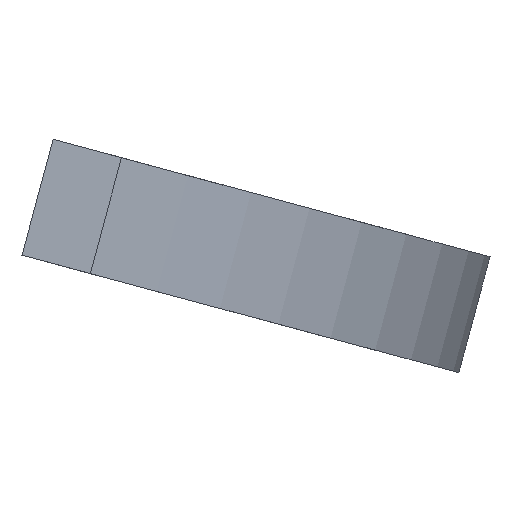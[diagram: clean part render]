
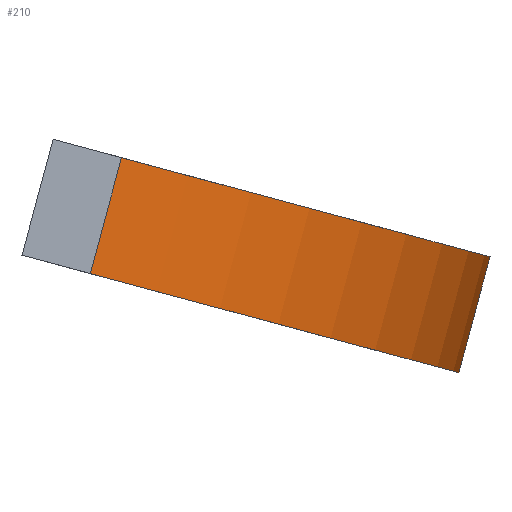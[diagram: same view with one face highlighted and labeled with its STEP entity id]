
A CAD part, front view. The second image highlights one B-rep face of the part: STEP entity #210.
In plain terms, the highlighted cylindrical face has radius 10.51 mm (diameter 21.02 mm), a partial arc.
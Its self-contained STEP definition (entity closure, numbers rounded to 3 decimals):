
#16=CYLINDRICAL_SURFACE('',#234,10.51);
#17=CIRCLE('',#228,10.51);
#20=CIRCLE('',#235,10.51);
#28=LINE('',#566,#38);
#29=LINE('',#570,#39);
#38=VECTOR('',#261,10.);
#39=VECTOR('',#266,10.);
#55=FACE_OUTER_BOUND('',#67,.T.);
#67=EDGE_LOOP('',(#178,#179,#180,#181));
#93=VERTEX_POINT('',#422);
#94=VERTEX_POINT('',#436);
#104=VERTEX_POINT('',#552);
#105=VERTEX_POINT('',#568);
#115=EDGE_CURVE('',#94,#93,#17,.T.);
#132=EDGE_CURVE('',#93,#104,#28,.T.);
#133=EDGE_CURVE('',#105,#104,#20,.T.);
#134=EDGE_CURVE('',#94,#105,#29,.T.);
#178=ORIENTED_EDGE('',*,*,#115,.T.);
#179=ORIENTED_EDGE('',*,*,#132,.T.);
#180=ORIENTED_EDGE('',*,*,#133,.F.);
#181=ORIENTED_EDGE('',*,*,#134,.F.);
#210=ADVANCED_FACE('',(#55),#16,.T.);
#228=AXIS2_PLACEMENT_3D('',#437,#243,#244);
#234=AXIS2_PLACEMENT_3D('',#567,#262,#263);
#235=AXIS2_PLACEMENT_3D('',#569,#264,#265);
#243=DIRECTION('center_axis',(-0.26,0.,-0.966));
#244=DIRECTION('ref_axis',(0.966,0.,-0.26));
#261=DIRECTION('',(-0.26,0.,-0.966));
#262=DIRECTION('center_axis',(-0.26,0.,-0.966));
#263=DIRECTION('ref_axis',(0.966,0.,-0.26));
#264=DIRECTION('center_axis',(-0.26,0.,-0.966));
#265=DIRECTION('ref_axis',(0.966,0.,-0.26));
#266=DIRECTION('',(-0.26,0.,-0.966));
#422=CARTESIAN_POINT('',(-7.476,-131.605,-161.392));
#436=CARTESIAN_POINT('',(1.249,-121.199,-163.738));
#437=CARTESIAN_POINT('Origin',(-8.901,-121.199,-161.009));
#552=CARTESIAN_POINT('',(-8.213,-131.605,-164.136));
#566=CARTESIAN_POINT('',(-7.424,-131.605,-161.199));
#567=CARTESIAN_POINT('Origin',(-8.849,-121.199,-160.816));
#568=CARTESIAN_POINT('',(0.512,-121.199,-166.481));
#569=CARTESIAN_POINT('Origin',(-9.638,-121.199,-163.753));
#570=CARTESIAN_POINT('',(1.301,-121.199,-163.544));
